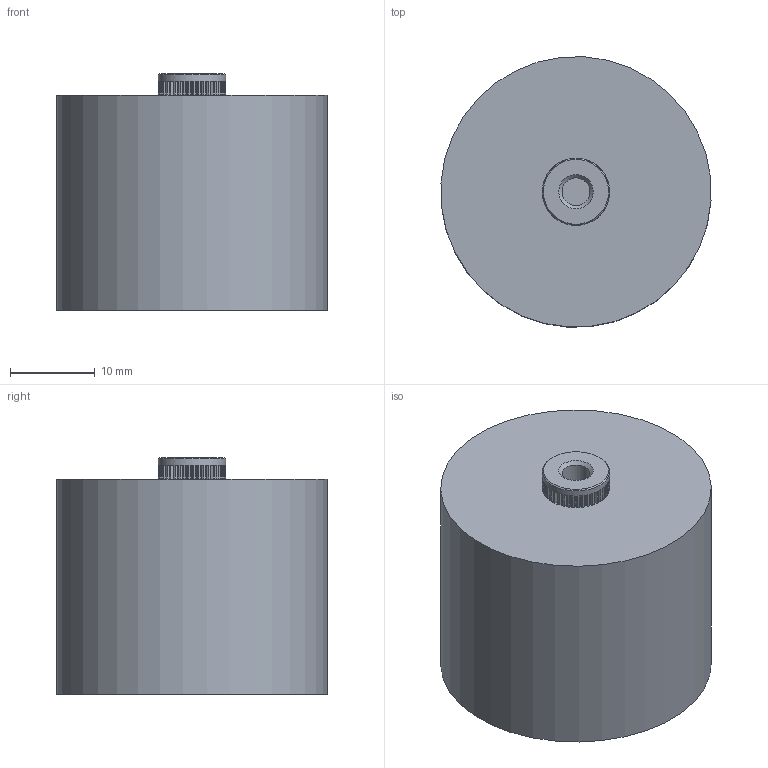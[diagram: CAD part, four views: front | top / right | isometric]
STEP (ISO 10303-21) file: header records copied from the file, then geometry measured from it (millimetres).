
FILE_DESCRIPTION((''),'2;1');
FILE_NAME('I:\Marketing\M6t1\M6T1 - Internal\Drawings\Werk 3\Finished product\Ceramite\Upload for homepage\715\715C###KT###\715C30KTT59.stp','2013-06-10T14:32:33',('sherden'),(''),'Autodesk Inventor 2013','Autodesk Inventor 2013','');
FILE_SCHEMA(('AUTOMOTIVE_DESIGN { 1 2 10303 214 0 1 1 1 }'));
Length unit declared in the file: millimetre
Products named in the file (1): 715C30KTT59
Bounding box: 31.93 x 31.93 x 28 mm (x, y, z)
Volume: 20507.5 mm3; surface area: 4520.6 mm2
Topology: 1 solids, 41 shells, 573 faces, 1419 edges, 932 vertices
Faces by surface type: plane 486, cylinder 84, cone 3
Full cylindrical faces by diameter (mm): 3.302 x2, 7.95 x1, 32 x1
Entity records: 17304 total; most frequent: CARTESIAN_POINT 2916, ORIENTED_EDGE 2822, DIRECTION 2810, EDGE_CURVE 1411, VECTOR 1160, LINE 1160, VERTEX_POINT 931, AXIS2_PLACEMENT_3D 825
